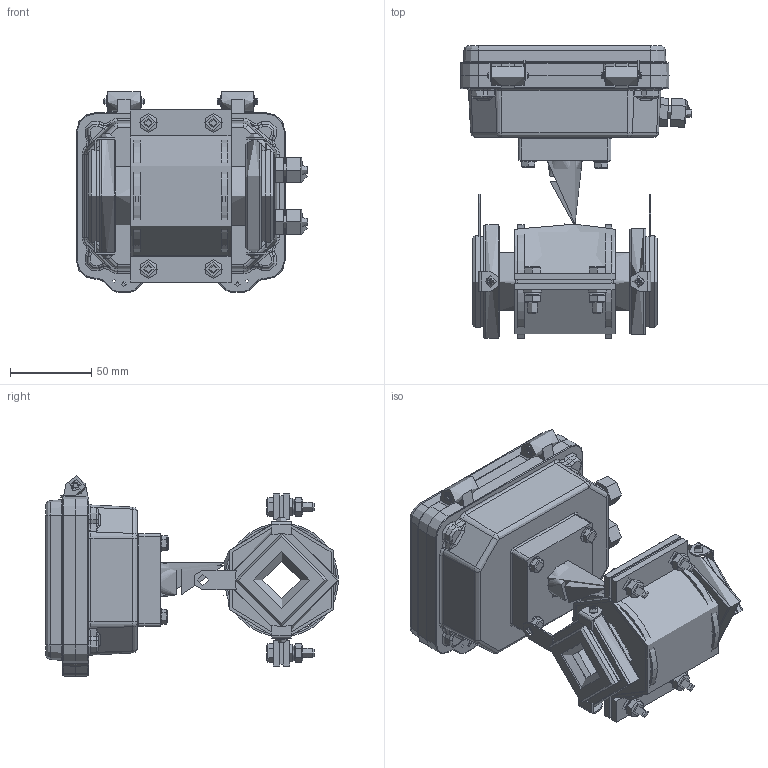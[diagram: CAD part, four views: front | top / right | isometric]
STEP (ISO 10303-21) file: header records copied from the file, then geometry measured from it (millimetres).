
FILE_DESCRIPTION(('STEP AP214'), '1');
FILE_NAME('Âçëåò ÝÌ ÏÐÎÔÈ DN25 Ñýíäâè÷', '', ('UNSPECIFIED'), ('UNSPECIFIED'), 'ASCON STEP Converter 1.6', 'ASCON Math Kernel', '');
FILE_SCHEMA(('AUTOMOTIVE_DESIGN { 1 0 10303 214 3 1 1}'));
Length unit declared in the file: millimetre
Products named in the file (1): 婽挭.407212.031-001.05
Bounding box: 142.42 x 180.32 x 123.45 mm (x, y, z)
Topology: 5 solids, 12 shells, 1467 faces, 3561 edges, 2171 vertices
Faces by surface type: plane 685, cylinder 422, cone 167, torus 151, bspline 38, sphere 4
Full cylindrical faces by diameter (mm): 0.8 x2, 2 x2, 3 x4, 3.242 x14, 3.3 x2, 4 x14, 5 x5, 5.5 x1, 6 x12, 6.4 x4, 7 x21, 7.5 x2, 8 x2, 10 x4, 11 x4, 12 x8, 12.5 x2, 16.5 x2, 18 x1, 19 x1, 20 x1, 21 x2, 24 x1, 25 x1, 30 x3, 31 x2, 34 x2, 36 x1, 36.4 x2, 55.5 x2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
Entity records: 73394 total; most frequent: CARTESIAN_POINT 23031, DIRECTION 7237, ORIENTED_EDGE 6468, EDGE_CURVE 3234, AXIS2_PLACEMENT_3D 2824, VERTEX_POINT 2145, EDGE_LOOP 1917, LINE 1589
